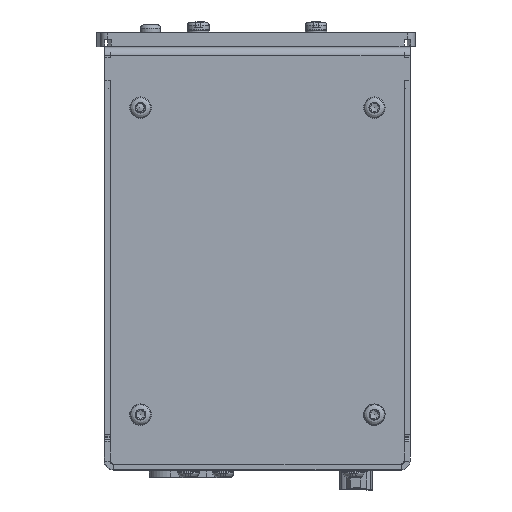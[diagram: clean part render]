
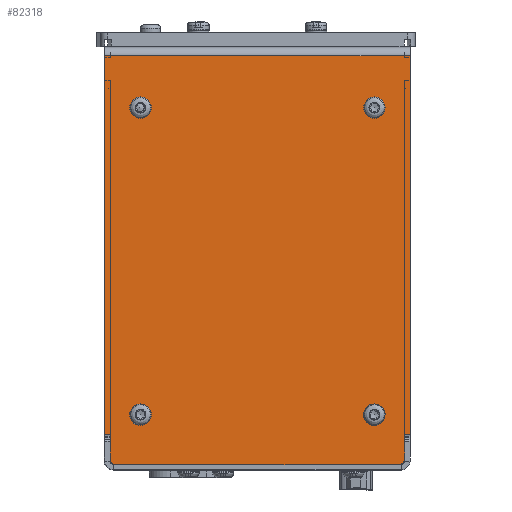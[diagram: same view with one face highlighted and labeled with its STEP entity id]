
A CAD part, front view. The second image highlights one B-rep face of the part: STEP entity #82318.
In plain terms, the highlighted planar face has unit normal (0.002, -1, 0).
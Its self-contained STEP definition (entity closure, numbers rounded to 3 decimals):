
#1398=FACE_BOUND('',#10113,.T.);
#1399=FACE_BOUND('',#10114,.T.);
#1400=FACE_BOUND('',#10115,.T.);
#1401=FACE_BOUND('',#10116,.T.);
#2280=PLANE('',#87186);
#5680=FACE_OUTER_BOUND('',#10112,.T.);
#10112=EDGE_LOOP('',(#58510,#58511,#58512,#58513,#58514,#58515,#58516,#58517,
#58518,#58519,#58520,#58521));
#10113=EDGE_LOOP('',(#58522));
#10114=EDGE_LOOP('',(#58523));
#10115=EDGE_LOOP('',(#58524));
#10116=EDGE_LOOP('',(#58525));
#15889=LINE('',#120678,#24543);
#15937=LINE('',#120800,#24591);
#15941=LINE('',#120807,#24595);
#15942=LINE('',#120810,#24596);
#15943=LINE('',#120812,#24597);
#15944=LINE('',#120814,#24598);
#15945=LINE('',#120816,#24599);
#15946=LINE('',#120818,#24600);
#15947=LINE('',#120819,#24601);
#15948=LINE('',#120820,#24602);
#24543=VECTOR('',#95891,10.);
#24591=VECTOR('',#95997,10.);
#24595=VECTOR('',#96003,10.);
#24596=VECTOR('',#96006,10.);
#24597=VECTOR('',#96007,10.);
#24598=VECTOR('',#96008,10.);
#24599=VECTOR('',#96009,10.);
#24600=VECTOR('',#96010,10.);
#24601=VECTOR('',#96011,10.);
#24602=VECTOR('',#96012,10.);
#32420=CIRCLE('',#86969,3.);
#32435=CIRCLE('',#87007,3.);
#32450=CIRCLE('',#87045,3.);
#32465=CIRCLE('',#87083,3.);
#32509=CIRCLE('',#87183,1.5);
#32511=CIRCLE('',#87187,1.5);
#35416=VERTEX_POINT('',#119970);
#35448=VERTEX_POINT('',#120130);
#35480=VERTEX_POINT('',#120290);
#35512=VERTEX_POINT('',#120450);
#35561=VERTEX_POINT('',#120670);
#35564=VERTEX_POINT('',#120676);
#35605=VERTEX_POINT('',#120790);
#35606=VERTEX_POINT('',#120792);
#35607=VERTEX_POINT('',#120796);
#35609=VERTEX_POINT('',#120799);
#35611=VERTEX_POINT('',#120806);
#35612=VERTEX_POINT('',#120808);
#35613=VERTEX_POINT('',#120811);
#35614=VERTEX_POINT('',#120813);
#35615=VERTEX_POINT('',#120815);
#35616=VERTEX_POINT('',#120817);
#44039=EDGE_CURVE('',#35416,#35416,#32420,.T.);
#44093=EDGE_CURVE('',#35448,#35448,#32435,.T.);
#44147=EDGE_CURVE('',#35480,#35480,#32450,.T.);
#44201=EDGE_CURVE('',#35512,#35512,#32465,.T.);
#44287=EDGE_CURVE('',#35561,#35564,#15889,.T.);
#44342=EDGE_CURVE('',#35605,#35606,#32509,.T.);
#44345=EDGE_CURVE('',#35609,#35607,#15937,.T.);
#44349=EDGE_CURVE('',#35605,#35611,#15941,.T.);
#44350=EDGE_CURVE('',#35612,#35611,#32511,.T.);
#44351=EDGE_CURVE('',#35612,#35561,#15942,.T.);
#44352=EDGE_CURVE('',#35564,#35613,#15943,.T.);
#44353=EDGE_CURVE('',#35614,#35613,#15944,.T.);
#44354=EDGE_CURVE('',#35614,#35615,#15945,.T.);
#44355=EDGE_CURVE('',#35616,#35615,#15946,.T.);
#44356=EDGE_CURVE('',#35616,#35609,#15947,.T.);
#44357=EDGE_CURVE('',#35606,#35607,#15948,.T.);
#58510=ORIENTED_EDGE('',*,*,#44342,.F.);
#58511=ORIENTED_EDGE('',*,*,#44349,.T.);
#58512=ORIENTED_EDGE('',*,*,#44350,.F.);
#58513=ORIENTED_EDGE('',*,*,#44351,.T.);
#58514=ORIENTED_EDGE('',*,*,#44287,.T.);
#58515=ORIENTED_EDGE('',*,*,#44352,.T.);
#58516=ORIENTED_EDGE('',*,*,#44353,.F.);
#58517=ORIENTED_EDGE('',*,*,#44354,.T.);
#58518=ORIENTED_EDGE('',*,*,#44355,.F.);
#58519=ORIENTED_EDGE('',*,*,#44356,.T.);
#58520=ORIENTED_EDGE('',*,*,#44345,.T.);
#58521=ORIENTED_EDGE('',*,*,#44357,.F.);
#58522=ORIENTED_EDGE('',*,*,#44039,.T.);
#58523=ORIENTED_EDGE('',*,*,#44093,.T.);
#58524=ORIENTED_EDGE('',*,*,#44147,.T.);
#58525=ORIENTED_EDGE('',*,*,#44201,.T.);
#82318=ADVANCED_FACE('',(#5680,#1398,#1399,#1400,#1401),#2280,.T.);
#86969=AXIS2_PLACEMENT_3D('',#119971,#95396,#95397);
#87007=AXIS2_PLACEMENT_3D('',#120131,#95499,#95500);
#87045=AXIS2_PLACEMENT_3D('',#120291,#95602,#95603);
#87083=AXIS2_PLACEMENT_3D('',#120451,#95705,#95706);
#87183=AXIS2_PLACEMENT_3D('',#120793,#95990,#95991);
#87186=AXIS2_PLACEMENT_3D('',#120805,#96001,#96002);
#87187=AXIS2_PLACEMENT_3D('',#120809,#96004,#96005);
#95396=DIRECTION('center_axis',(-0.002,1.,
0.));
#95397=DIRECTION('ref_axis',(-1.,-0.002,0.));
#95499=DIRECTION('center_axis',(-0.002,1.,
0.));
#95500=DIRECTION('ref_axis',(-1.,-0.002,0.));
#95602=DIRECTION('center_axis',(-0.002,1.,
0.));
#95603=DIRECTION('ref_axis',(-1.,-0.002,0.));
#95705=DIRECTION('center_axis',(-0.002,1.,
0.));
#95706=DIRECTION('ref_axis',(-1.,-0.002,0.));
#95891=DIRECTION('',(0.,0.,1.));
#95990=DIRECTION('center_axis',(-0.002,1.,
0.));
#95991=DIRECTION('ref_axis',(-0.707,-0.001,-0.707));
#95997=DIRECTION('',(0.,0.,-1.));
#96001=DIRECTION('center_axis',(0.002,-1.,
0.));
#96002=DIRECTION('ref_axis',(1.,0.002,0.));
#96003=DIRECTION('',(1.,0.002,0.));
#96004=DIRECTION('center_axis',(-0.002,1.,
0.));
#96005=DIRECTION('ref_axis',(0.707,0.001,-0.707));
#96006=DIRECTION('',(0.,0.,1.));
#96007=DIRECTION('',(1.,0.002,0.));
#96008=DIRECTION('',(0.,0.,-1.));
#96009=DIRECTION('',(-1.,-0.002,0.));
#96010=DIRECTION('',(0.,0.,1.));
#96011=DIRECTION('',(1.,0.002,0.));
#96012=DIRECTION('',(0.,0.,1.));
#119970=CARTESIAN_POINT('',(-190.104,92.471,32.991));
#119971=CARTESIAN_POINT('Origin',(-193.104,92.464,32.991));
#120130=CARTESIAN_POINT('',(-124.604,92.607,118.991));
#120131=CARTESIAN_POINT('Origin',(-127.604,92.6,118.991));
#120290=CARTESIAN_POINT('',(-190.104,92.471,118.991));
#120291=CARTESIAN_POINT('Origin',(-193.104,92.464,118.991));
#120450=CARTESIAN_POINT('',(-124.604,92.607,32.991));
#120451=CARTESIAN_POINT('Origin',(-127.604,92.6,32.991));
#120670=CARTESIAN_POINT('',(-119.104,92.618,25.491));
#120676=CARTESIAN_POINT('',(-119.104,92.618,27.491));
#120678=CARTESIAN_POINT('',(-119.104,92.618,52.516));
#120790=CARTESIAN_POINT('',(-200.104,92.45,18.991));
#120792=CARTESIAN_POINT('',(-201.604,92.447,20.491));
#120793=CARTESIAN_POINT('Origin',(-200.104,92.45,20.491));
#120796=CARTESIAN_POINT('',(-201.604,92.447,25.491));
#120799=CARTESIAN_POINT('',(-201.604,92.447,27.491));
#120800=CARTESIAN_POINT('',(-201.604,92.447,48.266));
#120805=CARTESIAN_POINT('Origin',(-160.354,92.532,77.541));
#120806=CARTESIAN_POINT('',(-120.604,92.615,18.991));
#120807=CARTESIAN_POINT('',(-117.604,92.621,18.991));
#120808=CARTESIAN_POINT('',(-119.104,92.618,20.491));
#120809=CARTESIAN_POINT('Origin',(-120.604,92.615,20.491));
#120810=CARTESIAN_POINT('',(-119.104,92.618,17.391));
#120811=CARTESIAN_POINT('',(-117.604,92.621,27.491));
#120812=CARTESIAN_POINT('',(-138.979,92.577,27.491));
#120813=CARTESIAN_POINT('',(-117.604,92.621,133.491));
#120814=CARTESIAN_POINT('',(-117.604,92.621,133.491));
#120815=CARTESIAN_POINT('',(-203.104,92.444,133.491));
#120816=CARTESIAN_POINT('',(-160.354,92.532,133.491));
#120817=CARTESIAN_POINT('',(-203.104,92.444,27.491));
#120818=CARTESIAN_POINT('',(-203.104,92.444,136.091));
#120819=CARTESIAN_POINT('',(-180.979,92.49,27.491));
#120820=CARTESIAN_POINT('',(-201.604,92.447,17.391));
